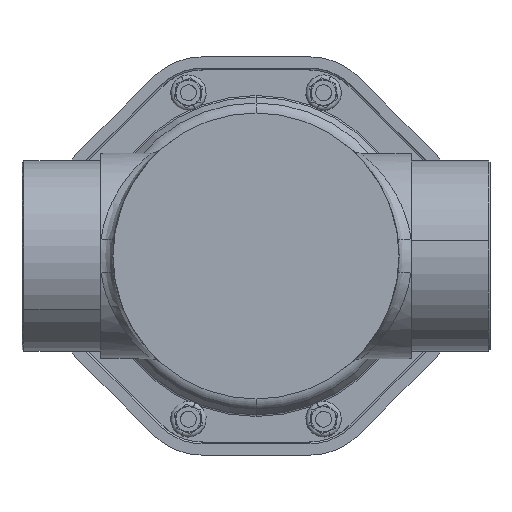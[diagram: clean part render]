
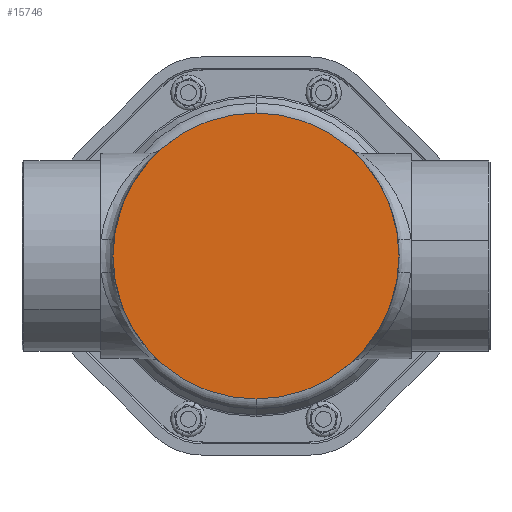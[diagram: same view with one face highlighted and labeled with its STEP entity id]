
A CAD part, front view. The second image highlights one B-rep face of the part: STEP entity #15746.
In plain terms, the highlighted planar face has unit normal (0, -1, 0).
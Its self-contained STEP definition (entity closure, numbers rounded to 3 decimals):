
#114 = DIRECTION ( 'NONE',  ( 0., 1., 0. ) ) ;
#3426 = DIRECTION ( 'NONE',  ( 0., 0., 1. ) ) ;
#3909 = EDGE_LOOP ( 'NONE', ( #13772, #6995 ) ) ;
#5674 = PLANE ( 'NONE',  #8870 ) ;
#5713 = CIRCLE ( 'NONE', #17170, 38.05 ) ;
#5974 = FACE_OUTER_BOUND ( 'NONE', #3909, .T. ) ;
#6342 = CARTESIAN_POINT ( 'NONE',  ( 0., 0., -38.05 ) ) ;
#6484 = VERTEX_POINT ( 'NONE', #6342 ) ;
#6995 = ORIENTED_EDGE ( 'NONE', *, *, #12327, .F. ) ;
#7424 = DIRECTION ( 'NONE',  ( 0., 1., 0. ) ) ;
#8253 = DIRECTION ( 'NONE',  ( 0., 0., 1. ) ) ;
#8870 = AXIS2_PLACEMENT_3D ( 'NONE', #9887, #9829, #11071 ) ;
#9829 = DIRECTION ( 'NONE',  ( 0., 1., 0. ) ) ;
#9844 = CARTESIAN_POINT ( 'NONE',  ( 0., 0., 0. ) ) ;
#9887 = CARTESIAN_POINT ( 'NONE',  ( 0., 0., 0. ) ) ;
#11071 = DIRECTION ( 'NONE',  ( 0., 0., 1. ) ) ;
#12327 = EDGE_CURVE ( 'NONE', #14963, #6484, #15591, .T. ) ;
#12594 = AXIS2_PLACEMENT_3D ( 'NONE', #12793, #7424, #3426 ) ;
#12793 = CARTESIAN_POINT ( 'NONE',  ( 0., 0., 0. ) ) ;
#13772 = ORIENTED_EDGE ( 'NONE', *, *, #17109, .F. ) ;
#14963 = VERTEX_POINT ( 'NONE', #16683 ) ;
#15591 = CIRCLE ( 'NONE', #12594, 38.05 ) ;
#15746 = ADVANCED_FACE ( 'NONE', ( #5974 ), #5674, .F. ) ;
#16683 = CARTESIAN_POINT ( 'NONE',  ( 0., 0., 38.05 ) ) ;
#17109 = EDGE_CURVE ( 'NONE', #6484, #14963, #5713, .T. ) ;
#17170 = AXIS2_PLACEMENT_3D ( 'NONE', #9844, #114, #8253 ) ;
